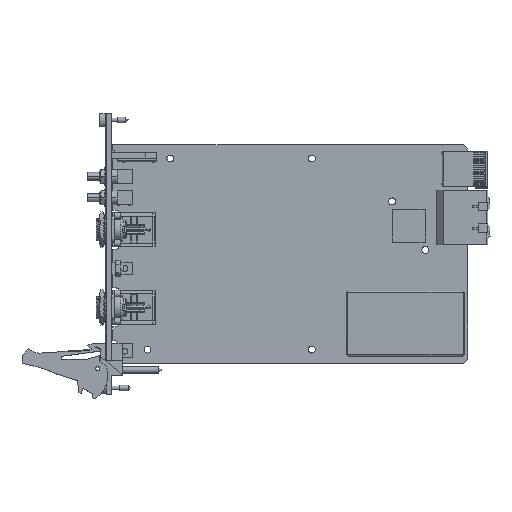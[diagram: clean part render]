
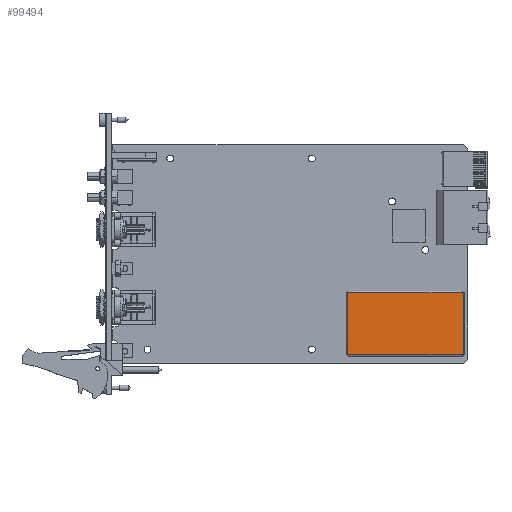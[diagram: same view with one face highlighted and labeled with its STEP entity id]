
A CAD part, top view. The second image highlights one B-rep face of the part: STEP entity #99494.
In plain terms, the highlighted planar face has unit normal (0, 0, 1).
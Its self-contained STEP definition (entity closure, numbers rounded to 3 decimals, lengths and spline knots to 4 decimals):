
#31847=DIRECTION('',(0.,1.,0.));
#31848=VECTOR('',#31847,1.122);
#31849=CARTESIAN_POINT('',(6.2192,-3.783,0.367));
#31850=LINE('',#31849,#31848);
#31871=DIRECTION('',(1.,0.,0.));
#31872=VECTOR('',#31871,2.076);
#31873=CARTESIAN_POINT('',(4.1432,-3.783,0.367));
#31874=LINE('',#31873,#31872);
#31895=DIRECTION('',(0.,-1.,0.));
#31896=VECTOR('',#31895,1.122);
#31897=CARTESIAN_POINT('',(4.1432,-2.661,0.367));
#31898=LINE('',#31897,#31896);
#31919=DIRECTION('',(-1.,0.,0.));
#31920=VECTOR('',#31919,2.076);
#31921=CARTESIAN_POINT('',(6.2192,-2.661,0.367));
#31922=LINE('',#31921,#31920);
#38788=CARTESIAN_POINT('',(6.2192,-3.783,0.367));
#38789=VERTEX_POINT('',#38788);
#38887=CARTESIAN_POINT('',(4.1432,-3.783,0.367));
#38888=VERTEX_POINT('',#38887);
#38953=CARTESIAN_POINT('',(4.1432,-2.661,0.367));
#38954=VERTEX_POINT('',#38953);
#38999=CARTESIAN_POINT('',(6.2192,-2.661,0.367));
#39000=VERTEX_POINT('',#38999);
#99480=CARTESIAN_POINT('',(5.1812,-3.222,0.367));
#99481=DIRECTION('',(0.,0.,1.));
#99482=DIRECTION('',(0.,-1.,0.));
#99483=AXIS2_PLACEMENT_3D('',#99480,#99481,#99482);
#99484=PLANE('',#99483);
#99486=ORIENTED_EDGE('',*,*,#99485,.F.);
#99488=ORIENTED_EDGE('',*,*,#99487,.F.);
#99490=ORIENTED_EDGE('',*,*,#99489,.F.);
#99491=ORIENTED_EDGE('',*,*,#99472,.F.);
#99492=EDGE_LOOP('',(#99486,#99488,#99490,#99491));
#99493=FACE_OUTER_BOUND('',#99492,.F.);
#99494=ADVANCED_FACE('',(#99493),#99484,.T.);
#99472=EDGE_CURVE('',#38789,#39000,#31850,.T.);
#99485=EDGE_CURVE('',#38888,#38789,#31874,.T.);
#99487=EDGE_CURVE('',#38954,#38888,#31898,.T.);
#99489=EDGE_CURVE('',#39000,#38954,#31922,.T.);
